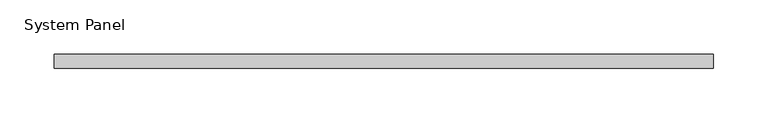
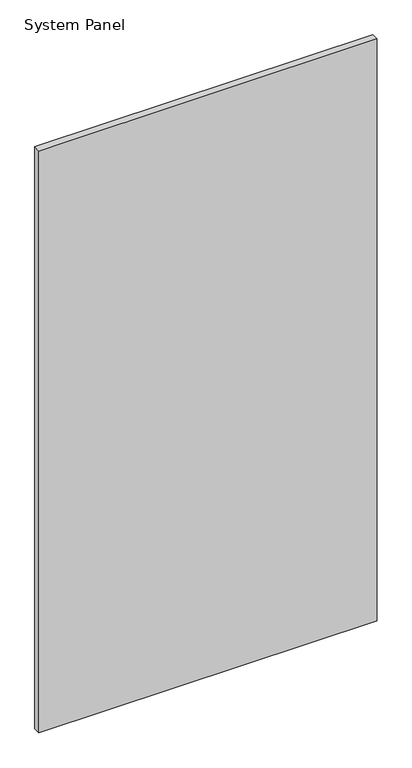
"""IFC4 building model written with IfcOpenShell, lengths in millimetres: plate geometry, System Panel : CR-BARANDA."""

from ifc_helpers import new_model, si_unit, origin, origin_with_axes, place, context, project, spatial, polyline, outline, extrude, source, transform, mapped, element, save


def system_panel_34dc83f9(model_context):
    return source(origin(), model_context, "Body", "SweptSolid", [
        extrude(outline(polyline([(302.4999998, -6.25), (-302.4999998, -6.25), (-302.4999998, 6.25), (302.4999998, 6.25), (302.4999998, -6.25)])), origin_with_axes(), (0.0, 0.0, 1.0), 1100.0),
    ])


if __name__ == "__main__":
    model = new_model("IFC4")
    model_context = context("Model", 3, world=origin())
    ifc_project = project(units=[si_unit("LENGTHUNIT", "METRE", prefix="MILLI")], contexts=[model_context])
    site = spatial("IfcSite", under=ifc_project)
    building = spatial("IfcBuilding", under=site)
    placement = place(None, origin())
    system_panel_shape = system_panel_34dc83f9(model_context)
    element("IfcPlate", 1, ObjectType="System Panel : CR-BARANDA", at=placement, inside=building, context=model_context, shape_type="MappedRepresentation", body=[
        mapped(system_panel_shape, transform((0.0, 0.0, 0.0), x_axis=(1.0, 0.0, 0.0), y_axis=(0.0, 1.0, 0.0), z_axis=(0.0, 0.0, 1.0))),
    ])
    save(model, "model.ifc")
